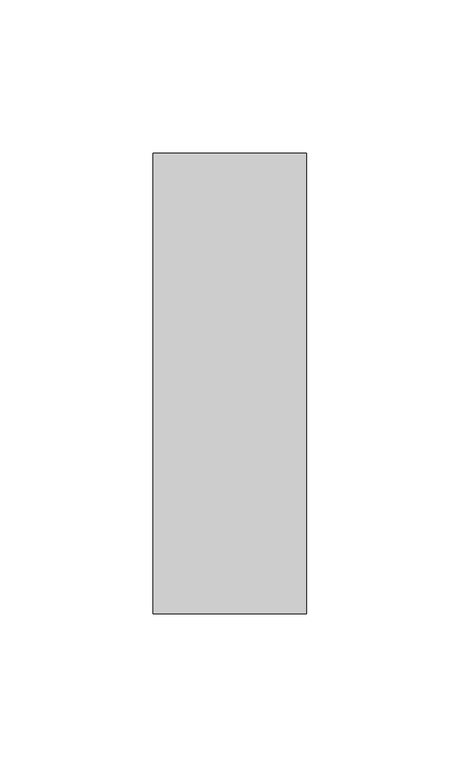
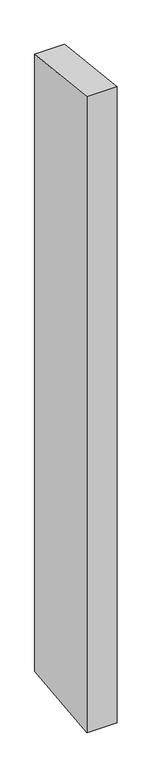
"""IFC4 building model written with IfcOpenShell, lengths in millimetres: member geometry, Прямоугольный импост : 50 x 150 мм."""

from ifc_helpers import new_model, si_unit, origin, place, context, project, spatial, faceted_brep, source, transform, mapped, element, save


def member_245deae6(model_context):
    return source(origin(), model_context, "Body", "Brep", [
        faceted_brep([(-25.0, 75.0, -8.2162405), (25.0, 75.0, -7.9894755), (25.0, 75.0, -1093.1343688), (-25.0, 75.0, -1092.9879615), (-25.0, -75.0, 7.9894755), (-25.0, -75.0, -1109.8344742), (25.0, -75.0, 8.2162405), (25.0, -75.0, -1109.9808815)], [[[0, 1, 2, 3]], [[4, 0, 3, 5]], [[6, 4, 5, 7]], [[1, 6, 7, 2]], [[1, 0, 4, 6]], [[2, 7, 5, 3]]]),
    ])


if __name__ == "__main__":
    model = new_model("IFC4")
    model_context = context("Model", 3, world=origin())
    ifc_project = project(units=[si_unit("LENGTHUNIT", "METRE", prefix="MILLI")], contexts=[model_context])
    site = spatial("IfcSite", under=ifc_project)
    building = spatial("IfcBuilding", under=site)
    placement = place(None, origin())
    member_shape = member_245deae6(model_context)
    element("IfcMember", 1, ObjectType="Прямоугольный импост : 50 x 150 мм", at=placement, inside=building, context=model_context, shape_type="MappedRepresentation", body=[
        mapped(member_shape, transform((0.0, 0.0, 0.0), x_axis=(1.0, 0.0, 0.0), y_axis=(0.0, 1.0, 0.0), z_axis=(0.0, 0.0, 1.0))),
    ])
    save(model, "model.ifc")
